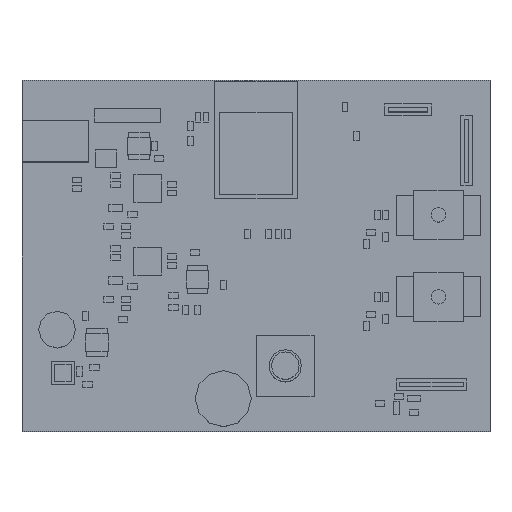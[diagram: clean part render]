
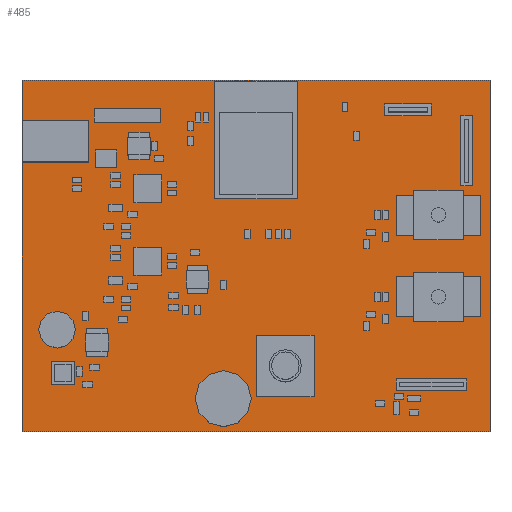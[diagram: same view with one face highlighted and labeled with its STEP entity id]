
A CAD part, top view. The second image highlights one B-rep face of the part: STEP entity #485.
In plain terms, the highlighted planar face has unit normal (0, 0, 1).
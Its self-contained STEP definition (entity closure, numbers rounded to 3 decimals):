
#356 = VERTEX_POINT('',#357);
#357 = CARTESIAN_POINT('',(0.,0.,0.391));
#363 = EDGE_CURVE('',#356,#364,#366,.T.);
#364 = VERTEX_POINT('',#365);
#365 = CARTESIAN_POINT('',(101.6,0.,0.391));
#366 = LINE('',#367,#368);
#367 = CARTESIAN_POINT('',(0.,0.,0.391));
#368 = VECTOR('',#369,1.);
#369 = DIRECTION('',(1.,0.,0.));
#394 = EDGE_CURVE('',#364,#395,#397,.T.);
#395 = VERTEX_POINT('',#396);
#396 = CARTESIAN_POINT('',(101.6,76.2,0.391));
#397 = LINE('',#398,#399);
#398 = CARTESIAN_POINT('',(101.6,0.,0.391));
#399 = VECTOR('',#400,1.);
#400 = DIRECTION('',(0.,1.,0.));
#425 = EDGE_CURVE('',#395,#426,#428,.T.);
#426 = VERTEX_POINT('',#427);
#427 = CARTESIAN_POINT('',(0.,76.2,0.391));
#428 = LINE('',#429,#430);
#429 = CARTESIAN_POINT('',(101.6,76.2,0.391));
#430 = VECTOR('',#431,1.);
#431 = DIRECTION('',(-1.,0.,0.));
#456 = EDGE_CURVE('',#426,#356,#457,.T.);
#457 = LINE('',#458,#459);
#458 = CARTESIAN_POINT('',(0.,76.2,0.391));
#459 = VECTOR('',#460,1.);
#460 = DIRECTION('',(0.,-1.,0.));
#485 = ADVANCED_FACE('',(#486),#492,.T.);
#486 = FACE_BOUND('',#487,.T.);
#487 = EDGE_LOOP('',(#488,#489,#490,#491));
#488 = ORIENTED_EDGE('',*,*,#363,.T.);
#489 = ORIENTED_EDGE('',*,*,#394,.T.);
#490 = ORIENTED_EDGE('',*,*,#425,.T.);
#491 = ORIENTED_EDGE('',*,*,#456,.T.);
#492 = PLANE('',#493);
#493 = AXIS2_PLACEMENT_3D('',#494,#495,#496);
#494 = CARTESIAN_POINT('',(50.8,38.1,0.391));
#495 = DIRECTION('',(0.,0.,1.));
#496 = DIRECTION('',(1.,0.,-0.));
